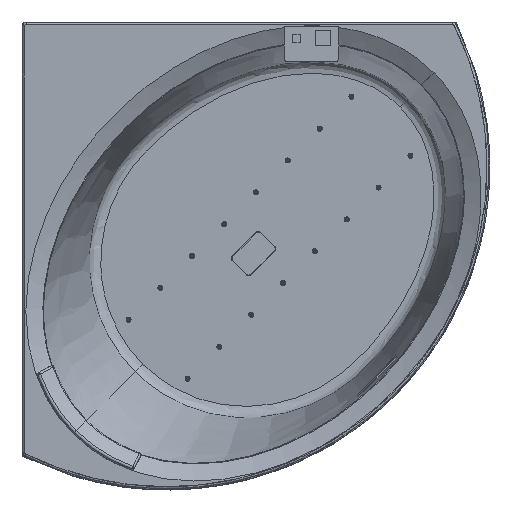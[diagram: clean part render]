
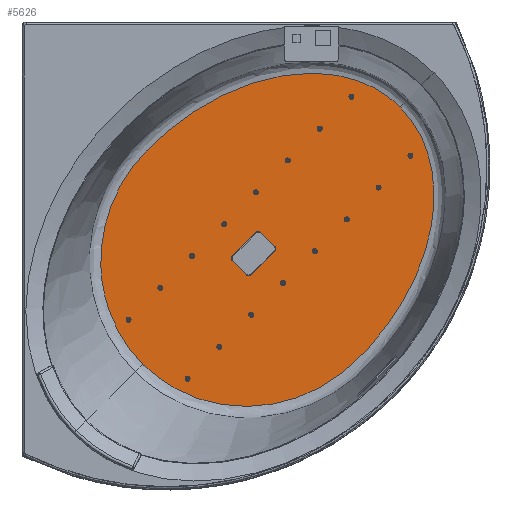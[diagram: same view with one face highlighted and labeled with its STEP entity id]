
A CAD part, top view. The second image highlights one B-rep face of the part: STEP entity #5626.
In plain terms, the highlighted planar face has unit normal (0, 0, 1).
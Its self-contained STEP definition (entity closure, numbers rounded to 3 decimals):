
#2238=CARTESIAN_POINT('',(685.872,-756.583,-500.478));
#2239=VERTEX_POINT('',#2238);
#2257=CARTESIAN_POINT('',(671.73,-756.583,-500.478));
#2258=VERTEX_POINT('',#2257);
#2265=CARTESIAN_POINT('',(679.425,-759.492,-500.478));
#2266=VERTEX_POINT('',#2265);
#2267=CARTESIAN_POINT('',(678.801,-749.512,-500.478));
#2268=DIRECTION('',(0.0,0.0,1.0));
#2269=DIRECTION('',(-0.707,-0.707,0.0));
#2270=AXIS2_PLACEMENT_3D('',#2267,#2268,#2269);
#2271=CIRCLE('',#2270,10.0);
#2272=EDGE_CURVE('',#2258,#2266,#2271,.T.);
#2274=CARTESIAN_POINT('',(678.801,-749.512,-500.478));
#2275=DIRECTION('',(0.0,0.0,1.0));
#2276=DIRECTION('',(-0.707,-0.707,0.0));
#2277=AXIS2_PLACEMENT_3D('',#2274,#2275,#2276);
#2278=CIRCLE('',#2277,10.0);
#2279=EDGE_CURVE('',#2266,#2239,#2278,.T.);
#2289=CARTESIAN_POINT('',(756.583,-685.872,-500.478));
#2290=VERTEX_POINT('',#2289);
#2291=CARTESIAN_POINT('',(685.872,-756.583,-500.478));
#2292=DIRECTION('',(0.707,0.707,0.0));
#2293=VECTOR('',#2292,100.);
#2294=LINE('',#2291,#2293);
#2295=EDGE_CURVE('',#2239,#2290,#2294,.T.);
#2320=CARTESIAN_POINT('',(756.583,-671.73,-500.478));
#2321=VERTEX_POINT('',#2320);
#2338=CARTESIAN_POINT('',(759.492,-679.425,-500.478));
#2339=VERTEX_POINT('',#2338);
#2340=CARTESIAN_POINT('',(749.512,-678.801,-500.478));
#2341=DIRECTION('',(0.0,0.0,1.));
#2342=DIRECTION('',(0.707,-0.707,0.0));
#2343=AXIS2_PLACEMENT_3D('',#2340,#2341,#2342);
#2344=CIRCLE('',#2343,10.0);
#2345=EDGE_CURVE('',#2290,#2339,#2344,.T.);
#2347=CARTESIAN_POINT('',(749.512,-678.801,-500.478));
#2348=DIRECTION('',(0.0,0.0,1.));
#2349=DIRECTION('',(0.707,-0.707,0.0));
#2350=AXIS2_PLACEMENT_3D('',#2347,#2348,#2349);
#2351=CIRCLE('',#2350,10.0);
#2352=EDGE_CURVE('',#2339,#2321,#2351,.T.);
#2362=CARTESIAN_POINT('',(714.156,-629.303,-500.478));
#2363=VERTEX_POINT('',#2362);
#2364=CARTESIAN_POINT('',(756.583,-671.73,-500.478));
#2365=DIRECTION('',(-0.707,0.707,0.0));
#2366=VECTOR('',#2365,60.0);
#2367=LINE('',#2364,#2366);
#2368=EDGE_CURVE('',#2321,#2363,#2367,.T.);
#2393=CARTESIAN_POINT('',(700.014,-629.303,-500.478));
#2394=VERTEX_POINT('',#2393);
#2411=CARTESIAN_POINT('',(706.461,-626.394,-500.478));
#2412=VERTEX_POINT('',#2411);
#2413=CARTESIAN_POINT('',(707.085,-636.375,-500.478));
#2414=DIRECTION('',(0.0,0.0,1.0));
#2415=DIRECTION('',(0.707,0.707,0.0));
#2416=AXIS2_PLACEMENT_3D('',#2413,#2414,#2415);
#2417=CIRCLE('',#2416,10.0);
#2418=EDGE_CURVE('',#2363,#2412,#2417,.T.);
#2420=CARTESIAN_POINT('',(707.085,-636.375,-500.478));
#2421=DIRECTION('',(0.0,0.0,1.0));
#2422=DIRECTION('',(0.707,0.707,0.0));
#2423=AXIS2_PLACEMENT_3D('',#2420,#2421,#2422);
#2424=CIRCLE('',#2423,10.0);
#2425=EDGE_CURVE('',#2412,#2394,#2424,.T.);
#2435=CARTESIAN_POINT('',(629.303,-700.014,-500.478));
#2436=VERTEX_POINT('',#2435);
#2437=CARTESIAN_POINT('',(700.014,-629.303,-500.478));
#2438=DIRECTION('',(-0.707,-0.707,0.0));
#2439=VECTOR('',#2438,100.);
#2440=LINE('',#2437,#2439);
#2441=EDGE_CURVE('',#2394,#2436,#2440,.T.);
#2466=CARTESIAN_POINT('',(629.303,-714.156,-500.478));
#2467=VERTEX_POINT('',#2466);
#2484=CARTESIAN_POINT('',(626.394,-706.461,-500.478));
#2485=VERTEX_POINT('',#2484);
#2486=CARTESIAN_POINT('',(636.375,-707.085,-500.478));
#2487=DIRECTION('',(0.0,0.0,1.0));
#2488=DIRECTION('',(-0.707,-0.707,0.0));
#2489=AXIS2_PLACEMENT_3D('',#2486,#2487,#2488);
#2490=CIRCLE('',#2489,10.0);
#2491=EDGE_CURVE('',#2436,#2485,#2490,.T.);
#2493=CARTESIAN_POINT('',(636.375,-707.085,-500.478));
#2494=DIRECTION('',(0.0,0.0,1.0));
#2495=DIRECTION('',(-0.707,-0.707,0.0));
#2496=AXIS2_PLACEMENT_3D('',#2493,#2494,#2495);
#2497=CIRCLE('',#2496,10.0);
#2498=EDGE_CURVE('',#2485,#2467,#2497,.T.);
#2508=CARTESIAN_POINT('',(629.303,-714.156,-500.478));
#2509=DIRECTION('',(0.707,-0.707,0.0));
#2510=VECTOR('',#2509,60.);
#2511=LINE('',#2508,#2510);
#2512=EDGE_CURVE('',#2467,#2258,#2511,.T.);
#5551=CARTESIAN_POINT('',(-1036.386,-580.696,-500.478));
#5552=DIRECTION('',(0.0,0.0,-1.0));
#5553=DIRECTION('',(0.707,0.707,0.0));
#5554=AXIS2_PLACEMENT_3D('',#5551,#5552,#5553);
#5555=PLANE('',#5554);
#5556=CARTESIAN_POINT('',(1132.45,-253.443,-500.478));
#5557=VERTEX_POINT('',#5556);
#5558=CARTESIAN_POINT('',(361.33,-1024.557,-500.478));
#5559=VERTEX_POINT('',#5558);
#5560=CARTESIAN_POINT('',(1132.45,-253.443,-500.478));
#5561=CARTESIAN_POINT('',(1147.352,-268.349,-500.478));
#5562=CARTESIAN_POINT('',(1178.178,-305.998,-500.478));
#5563=CARTESIAN_POINT('',(1209.495,-368.671,-500.478));
#5564=CARTESIAN_POINT('',(1230.357,-445.912,-500.478));
#5565=CARTESIAN_POINT('',(1237.133,-539.132,-500.478));
#5566=CARTESIAN_POINT('',(1222.426,-641.198,-500.478));
#5567=CARTESIAN_POINT('',(1181.523,-766.527,-500.478));
#5568=CARTESIAN_POINT('',(1125.546,-867.238,-500.478));
#5569=CARTESIAN_POINT('',(1066.029,-944.624,-500.478));
#5570=CARTESIAN_POINT('',(1035.321,-979.612,-500.478));
#5571=CARTESIAN_POINT('',(1013.2,-1002.935,-500.478));
#5572=CARTESIAN_POINT('',(993.359,-1022.484,-500.478));
#5573=CARTESIAN_POINT('',(970.297,-1042.591,-500.478));
#5574=CARTESIAN_POINT('',(934.281,-1070.11,-500.478));
#5575=CARTESIAN_POINT('',(885.573,-1099.528,-500.478));
#5576=CARTESIAN_POINT('',(808.118,-1132.775,-500.478));
#5577=CARTESIAN_POINT('',(722.58,-1151.53,-500.478));
#5578=CARTESIAN_POINT('',(616.451,-1151.627,-500.478));
#5579=CARTESIAN_POINT('',(513.171,-1128.303,-500.478));
#5580=CARTESIAN_POINT('',(423.613,-1080.096,-500.478));
#5581=CARTESIAN_POINT('',(377.147,-1040.374,-500.478));
#5582=CARTESIAN_POINT('',(361.33,-1024.557,-500.478));
#5583=B_SPLINE_CURVE_WITH_KNOTS('',3,(#5560,#5561,#5562,#5563,#5564,#5565,#5566,#5567,#5568,#5569,#5570,#5571,#5572,#5573,#5574,#5575,#5576,#5577,#5578,#5579,#5580,#5581,#5582),.UNSPECIFIED.,.F.,.U.,(4,1,1,1,1,1,1,1,1,1,1,1,1,1,1,1,1,1,1,1,4),(0.008,63.343,145.091,208.78,302.528,423.937,516.328,697.081,767.232,809.,836.694,863.658,892.534,928.436,999.552,1062.785,1180.767,1260.194,1379.936,1495.462,1562.635),.UNSPECIFIED.);
#5584=EDGE_CURVE('',#5557,#5559,#5583,.T.);
#5585=ORIENTED_EDGE('',*,*,#5584,.F.);
#5586=CARTESIAN_POINT('',(361.33,-1024.557,-500.478));
#5587=CARTESIAN_POINT('',(336.813,-1000.041,-500.478));
#5588=CARTESIAN_POINT('',(286.868,-936.232,-500.478));
#5589=CARTESIAN_POINT('',(242.167,-825.197,-500.478));
#5590=CARTESIAN_POINT('',(230.979,-710.324,-500.478));
#5591=CARTESIAN_POINT('',(246.084,-595.073,-500.478));
#5592=CARTESIAN_POINT('',(286.35,-493.688,-500.478));
#5593=CARTESIAN_POINT('',(336.227,-422.898,-500.478));
#5594=CARTESIAN_POINT('',(371.22,-384.163,-500.478));
#5595=CARTESIAN_POINT('',(399.27,-356.861,-500.478));
#5596=CARTESIAN_POINT('',(438.054,-322.406,-500.478));
#5597=CARTESIAN_POINT('',(500.766,-274.026,-500.478));
#5598=CARTESIAN_POINT('',(600.28,-213.391,-500.478));
#5599=CARTESIAN_POINT('',(714.718,-169.962,-500.478));
#5600=CARTESIAN_POINT('',(819.868,-152.526,-500.478));
#5601=CARTESIAN_POINT('',(893.996,-151.251,-500.478));
#5602=CARTESIAN_POINT('',(964.328,-160.843,-500.478));
#5603=CARTESIAN_POINT('',(1032.815,-182.617,-500.478));
#5604=CARTESIAN_POINT('',(1089.926,-215.253,-500.478));
#5605=CARTESIAN_POINT('',(1121.284,-242.279,-500.478));
#5606=CARTESIAN_POINT('',(1132.45,-253.443,-500.478));
#5607=B_SPLINE_CURVE_WITH_KNOTS('',3,(#5586,#5587,#5588,#5589,#5590,#5591,#5592,#5593,#5594,#5595,#5596,#5597,#5598,#5599,#5600,#5601,#5602,#5603,#5604,#5605,#5606),.UNSPECIFIED.,.F.,.U.,(4,1,1,1,1,1,1,1,1,1,1,1,1,1,1,1,1,1,4),(0.0,104.268,240.864,354.83,447.672,587.804,678.652,706.357,744.338,796.03,861.942,981.756,1144.756,1226.544,1300.639,1366.542,1438.864,1515.217,1562.626),.UNSPECIFIED.);
#5608=EDGE_CURVE('',#5559,#5557,#5607,.T.);
#5609=ORIENTED_EDGE('',*,*,#5608,.F.);
#5610=EDGE_LOOP('',(#5585,#5609));
#5611=FACE_OUTER_BOUND('',#5610,.T.);
#5612=ORIENTED_EDGE('',*,*,#2491,.F.);
#5613=ORIENTED_EDGE('',*,*,#2441,.F.);
#5614=ORIENTED_EDGE('',*,*,#2425,.F.);
#5615=ORIENTED_EDGE('',*,*,#2418,.F.);
#5616=ORIENTED_EDGE('',*,*,#2368,.F.);
#5617=ORIENTED_EDGE('',*,*,#2352,.F.);
#5618=ORIENTED_EDGE('',*,*,#2345,.F.);
#5619=ORIENTED_EDGE('',*,*,#2295,.F.);
#5620=ORIENTED_EDGE('',*,*,#2279,.F.);
#5621=ORIENTED_EDGE('',*,*,#2272,.F.);
#5622=ORIENTED_EDGE('',*,*,#2512,.F.);
#5623=ORIENTED_EDGE('',*,*,#2498,.F.);
#5624=EDGE_LOOP('',(#5612,#5613,#5614,#5615,#5616,#5617,#5618,#5619,#5620,#5621,#5622,#5623));
#5625=FACE_BOUND('',#5624,.T.);
#5626=ADVANCED_FACE('',(#5611,#5625),#5555,.F.);
